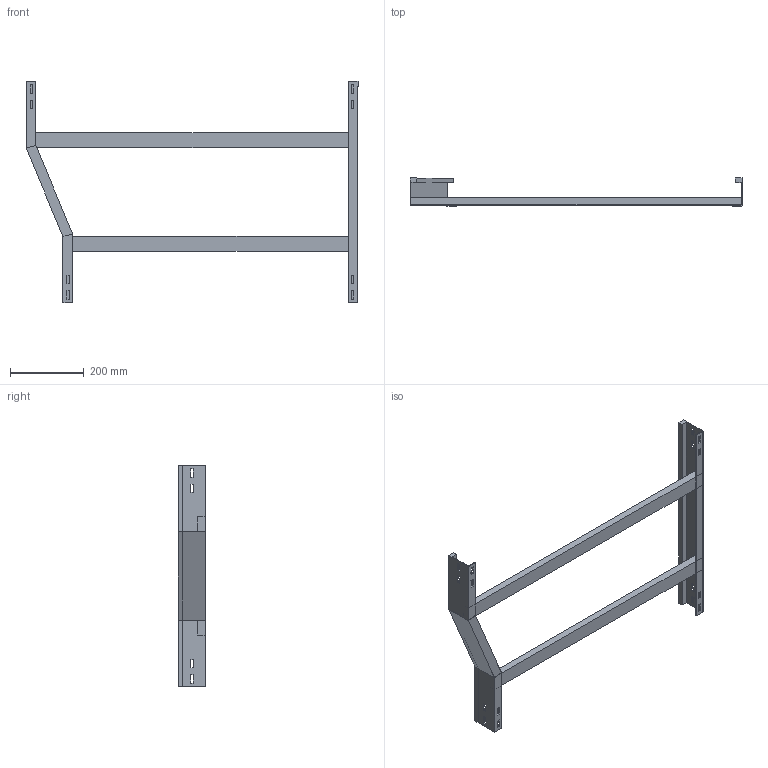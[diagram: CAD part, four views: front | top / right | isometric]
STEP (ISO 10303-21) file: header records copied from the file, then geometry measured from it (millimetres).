
FILE_DESCRIPTION (( 'STEP AP214' ), '1' );
FILE_NAME ('B2X21B8C900XX.step', '2025-09-02T17:18:02', ( '' ), ( '' ), 'SwSTEP 2.0', 'SolidWorks 2023', '' );
FILE_SCHEMA (( 'AUTOMOTIVE_DESIGN' ));
Length unit declared in the file: millimetre
Products named in the file (5): SPONDA RID. DX 900-800_H75; SPONDA DRITTA_H75; TRAVERSINO_900; TRAVERSINO_800; B2X21B8C900XX
Assembly tree (4 placements, depth 2):
  B2X21B8C900XX
    SPONDA RID. DX 900-800_H75
    TRAVERSINO_800
    TRAVERSINO_900
    SPONDA DRITTA_H75
Bounding box: 900 x 75 x 600 mm (x, y, z)
Volume: 1843832 mm3; surface area: 494388 mm2
Topology: 4 solids, 4 shells, 112 faces, 296 edges, 192 vertices
Faces by surface type: plane 112
Entity records: 3590 total; most frequent: CARTESIAN_POINT 607, ORIENTED_EDGE 592, DIRECTION 534, EDGE_CURVE 296, VECTOR 296, LINE 296, VERTEX_POINT 192, EDGE_LOOP 144
